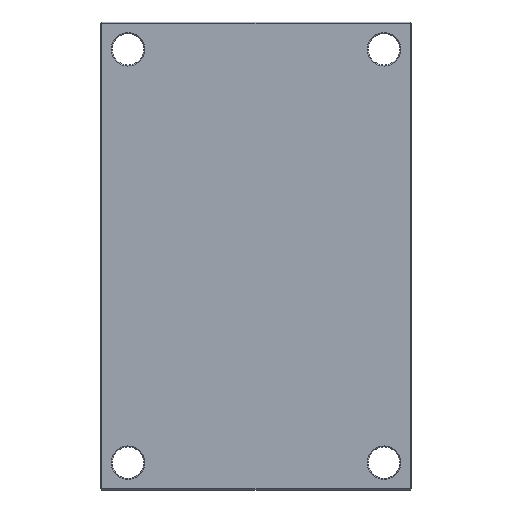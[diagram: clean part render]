
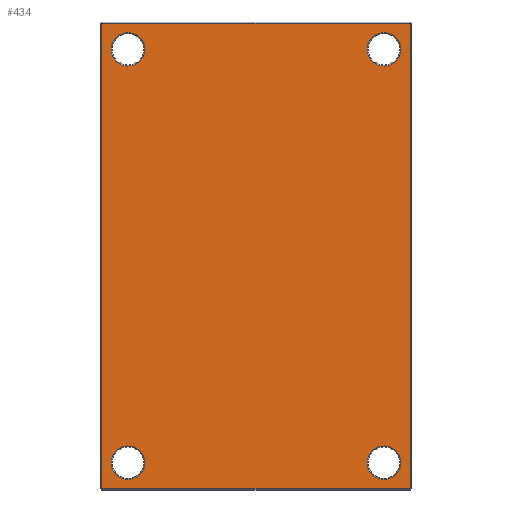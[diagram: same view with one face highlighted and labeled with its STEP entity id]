
A CAD part, front view. The second image highlights one B-rep face of the part: STEP entity #434.
In plain terms, the highlighted planar face has unit normal (0, -1, 0).
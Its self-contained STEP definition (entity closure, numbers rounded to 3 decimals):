
#51 = EDGE_LOOP ( 'NONE', ( #979, #1356, #390, #801 ) ) ;
#78 = EDGE_LOOP ( 'NONE', ( #1071, #1037 ) ) ;
#93 = EDGE_LOOP ( 'NONE', ( #115, #1169 ) ) ;
#115 = ORIENTED_EDGE ( 'NONE', *, *, #476, .T. ) ;
#169 = CARTESIAN_POINT ( 'NONE',  ( -122., 0., 197. ) ) ;
#171 = VERTEX_POINT ( 'NONE', #1332 ) ;
#182 = DIRECTION ( 'NONE',  ( 0., 1., 0. ) ) ;
#190 = VERTEX_POINT ( 'NONE', #2135 ) ;
#201 = DIRECTION ( 'NONE',  ( 0., 0., 1. ) ) ;
#205 = VERTEX_POINT ( 'NONE', #1026 ) ;
#215 = VERTEX_POINT ( 'NONE', #1495 ) ;
#244 = CIRCLE ( 'NONE', #1245, 16. ) ;
#257 = CARTESIAN_POINT ( 'NONE',  ( -122., 0., -213. ) ) ;
#275 = VERTEX_POINT ( 'NONE', #964 ) ;
#286 = EDGE_CURVE ( 'NONE', #1936, #215, #1472, .T. ) ;
#325 = VECTOR ( 'NONE', #1682, 1000. ) ;
#350 = CARTESIAN_POINT ( 'NONE',  ( 147., 0., 222. ) ) ;
#367 = VERTEX_POINT ( 'NONE', #1803 ) ;
#372 = EDGE_LOOP ( 'NONE', ( #483, #1212 ) ) ;
#390 = ORIENTED_EDGE ( 'NONE', *, *, #1966, .T. ) ;
#407 = CIRCLE ( 'NONE', #1587, 16. ) ;
#434 = ADVANCED_FACE ( 'NONE', ( #1101, #1005, #1029, #1077, #978 ), #1924, .F. ) ;
#441 = EDGE_CURVE ( 'NONE', #726, #205, #972, .T. ) ;
#470 = VECTOR ( 'NONE', #1463, 1000. ) ;
#471 = CARTESIAN_POINT ( 'NONE',  ( -122., 0., 181. ) ) ;
#476 = EDGE_CURVE ( 'NONE', #367, #844, #856, .T. ) ;
#483 = ORIENTED_EDGE ( 'NONE', *, *, #1570, .T. ) ;
#557 = DIRECTION ( 'NONE',  ( 0., 1., 0. ) ) ;
#575 = CARTESIAN_POINT ( 'NONE',  ( 122., 0., 181. ) ) ;
#588 = CARTESIAN_POINT ( 'NONE',  ( 0., 0., 222. ) ) ;
#620 = VERTEX_POINT ( 'NONE', #905 ) ;
#703 = EDGE_CURVE ( 'NONE', #1640, #275, #1961, .T. ) ;
#726 = VERTEX_POINT ( 'NONE', #471 ) ;
#801 = ORIENTED_EDGE ( 'NONE', *, *, #1761, .T. ) ;
#844 = VERTEX_POINT ( 'NONE', #1922 ) ;
#856 = CIRCLE ( 'NONE', #2036, 16. ) ;
#885 = VECTOR ( 'NONE', #2037, 1000. ) ;
#905 = CARTESIAN_POINT ( 'NONE',  ( 147., 0., -222. ) ) ;
#964 = CARTESIAN_POINT ( 'NONE',  ( -147., 0., 222. ) ) ;
#972 = CIRCLE ( 'NONE', #2170, 16. ) ;
#978 = FACE_OUTER_BOUND ( 'NONE', #51, .T. ) ;
#979 = ORIENTED_EDGE ( 'NONE', *, *, #1946, .T. ) ;
#1005 = FACE_BOUND ( 'NONE', #93, .T. ) ;
#1022 = CARTESIAN_POINT ( 'NONE',  ( 122., 0., 197. ) ) ;
#1026 = CARTESIAN_POINT ( 'NONE',  ( -122., 0., 213. ) ) ;
#1029 = FACE_BOUND ( 'NONE', #1621, .T. ) ;
#1037 = ORIENTED_EDGE ( 'NONE', *, *, #1521, .T. ) ;
#1045 = ORIENTED_EDGE ( 'NONE', *, *, #1920, .T. ) ;
#1046 = DIRECTION ( 'NONE',  ( 0., 0., 1. ) ) ;
#1071 = ORIENTED_EDGE ( 'NONE', *, *, #441, .T. ) ;
#1077 = FACE_BOUND ( 'NONE', #78, .T. ) ;
#1101 = FACE_BOUND ( 'NONE', #372, .T. ) ;
#1107 = VERTEX_POINT ( 'NONE', #257 ) ;
#1117 = ORIENTED_EDGE ( 'NONE', *, *, #286, .T. ) ;
#1127 = DIRECTION ( 'NONE',  ( -1., 0., 0. ) ) ;
#1157 = DIRECTION ( 'NONE',  ( 0., 1., 0. ) ) ;
#1169 = ORIENTED_EDGE ( 'NONE', *, *, #1865, .T. ) ;
#1171 = CARTESIAN_POINT ( 'NONE',  ( 122., 0., 197. ) ) ;
#1177 = DIRECTION ( 'NONE',  ( 0., 0., 1. ) ) ;
#1212 = ORIENTED_EDGE ( 'NONE', *, *, #1869, .T. ) ;
#1245 = AXIS2_PLACEMENT_3D ( 'NONE', #1171, #1157, #1046 ) ;
#1300 = AXIS2_PLACEMENT_3D ( 'NONE', #2104, #2101, #2098 ) ;
#1310 = CARTESIAN_POINT ( 'NONE',  ( 0., 0., -222. ) ) ;
#1332 = CARTESIAN_POINT ( 'NONE',  ( -122., 0., -181. ) ) ;
#1356 = ORIENTED_EDGE ( 'NONE', *, *, #703, .T. ) ;
#1363 = DIRECTION ( 'NONE',  ( 0., 1., 0. ) ) ;
#1382 = DIRECTION ( 'NONE',  ( 0., 0., 1. ) ) ;
#1383 = AXIS2_PLACEMENT_3D ( 'NONE', #1400, #1363, #1177 ) ;
#1400 = CARTESIAN_POINT ( 'NONE',  ( 122., 0., -197. ) ) ;
#1463 = DIRECTION ( 'NONE',  ( 1., 0., 0. ) ) ;
#1472 = CIRCLE ( 'NONE', #2028, 16. ) ;
#1495 = CARTESIAN_POINT ( 'NONE',  ( 122., 0., 213. ) ) ;
#1521 = EDGE_CURVE ( 'NONE', #205, #726, #1864, .T. ) ;
#1570 = EDGE_CURVE ( 'NONE', #1107, #171, #407, .T. ) ;
#1587 = AXIS2_PLACEMENT_3D ( 'NONE', #2046, #1753, #1746 ) ;
#1616 = CIRCLE ( 'NONE', #1300, 16. ) ;
#1621 = EDGE_LOOP ( 'NONE', ( #1117, #1045 ) ) ;
#1638 = AXIS2_PLACEMENT_3D ( 'NONE', #169, #182, #201 ) ;
#1640 = VERTEX_POINT ( 'NONE', #350 ) ;
#1682 = DIRECTION ( 'NONE',  ( 0., 0., -1. ) ) ;
#1730 = DIRECTION ( 'NONE',  ( 0., 0., 1. ) ) ;
#1736 = LINE ( 'NONE', #2165, #325 ) ;
#1738 = DIRECTION ( 'NONE',  ( 0., 1., 0. ) ) ;
#1746 = DIRECTION ( 'NONE',  ( 0., 0., 1. ) ) ;
#1753 = DIRECTION ( 'NONE',  ( 0., 1., 0. ) ) ;
#1757 = CARTESIAN_POINT ( 'NONE',  ( -122., 0., 197. ) ) ;
#1761 = EDGE_CURVE ( 'NONE', #190, #620, #1866, .T. ) ;
#1786 = LINE ( 'NONE', #2153, #885 ) ;
#1803 = CARTESIAN_POINT ( 'NONE',  ( 122., 0., -213. ) ) ;
#1859 = DIRECTION ( 'NONE',  ( 0., 0., 1. ) ) ;
#1864 = CIRCLE ( 'NONE', #1638, 16. ) ;
#1865 = EDGE_CURVE ( 'NONE', #844, #367, #2109, .T. ) ;
#1866 = LINE ( 'NONE', #1310, #470 ) ;
#1869 = EDGE_CURVE ( 'NONE', #171, #1107, #1616, .T. ) ;
#1882 = DIRECTION ( 'NONE',  ( 0., 1., 0. ) ) ;
#1911 = CARTESIAN_POINT ( 'NONE',  ( 122., 0., -197. ) ) ;
#1920 = EDGE_CURVE ( 'NONE', #215, #1936, #244, .T. ) ;
#1921 = CARTESIAN_POINT ( 'NONE',  ( 0., 0., 0. ) ) ;
#1922 = CARTESIAN_POINT ( 'NONE',  ( 122., 0., -181. ) ) ;
#1924 = PLANE ( 'NONE',  #2134 ) ;
#1936 = VERTEX_POINT ( 'NONE', #575 ) ;
#1946 = EDGE_CURVE ( 'NONE', #620, #1640, #1786, .T. ) ;
#1952 = VECTOR ( 'NONE', #1127, 1000. ) ;
#1961 = LINE ( 'NONE', #588, #1952 ) ;
#1966 = EDGE_CURVE ( 'NONE', #275, #190, #1736, .T. ) ;
#2007 = DIRECTION ( 'NONE',  ( 0., 1., 0. ) ) ;
#2028 = AXIS2_PLACEMENT_3D ( 'NONE', #1022, #557, #1382 ) ;
#2036 = AXIS2_PLACEMENT_3D ( 'NONE', #1911, #2007, #2051 ) ;
#2037 = DIRECTION ( 'NONE',  ( 0., 0., 1. ) ) ;
#2046 = CARTESIAN_POINT ( 'NONE',  ( -122., 0., -197. ) ) ;
#2051 = DIRECTION ( 'NONE',  ( 0., 0., 1. ) ) ;
#2098 = DIRECTION ( 'NONE',  ( 0., 0., 1. ) ) ;
#2101 = DIRECTION ( 'NONE',  ( 0., 1., 0. ) ) ;
#2104 = CARTESIAN_POINT ( 'NONE',  ( -122., 0., -197. ) ) ;
#2109 = CIRCLE ( 'NONE', #1383, 16. ) ;
#2134 = AXIS2_PLACEMENT_3D ( 'NONE', #1921, #1882, #1859 ) ;
#2135 = CARTESIAN_POINT ( 'NONE',  ( -147., 0., -222. ) ) ;
#2153 = CARTESIAN_POINT ( 'NONE',  ( 147., 0., 0. ) ) ;
#2165 = CARTESIAN_POINT ( 'NONE',  ( -147., 0., 0. ) ) ;
#2170 = AXIS2_PLACEMENT_3D ( 'NONE', #1757, #1738, #1730 ) ;
